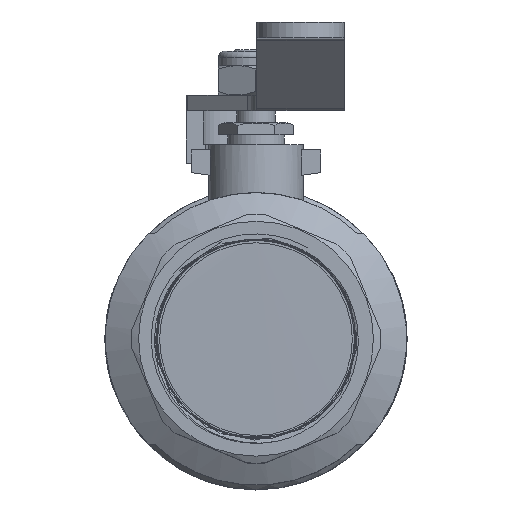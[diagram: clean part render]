
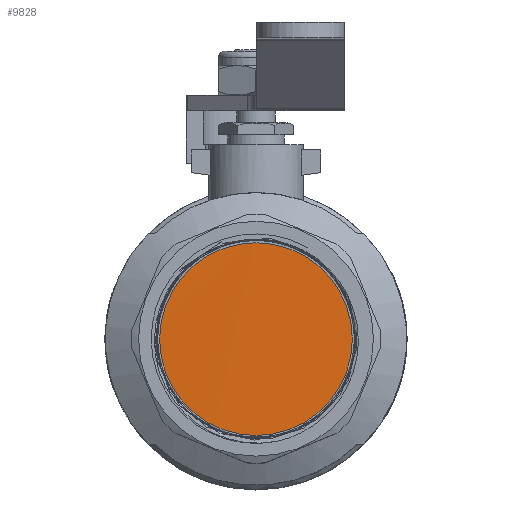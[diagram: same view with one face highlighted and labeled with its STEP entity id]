
A CAD part, top view. The second image highlights one B-rep face of the part: STEP entity #9828.
In plain terms, the highlighted cylindrical face has radius 29.657 mm (diameter 59.315 mm), a full revolution.
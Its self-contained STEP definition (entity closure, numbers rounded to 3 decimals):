
#818=FACE_OUTER_BOUND('',#1363,.T.);
#1363=EDGE_LOOP('',(#6229,#6230,#6231));
#1969=B_SPLINE_CURVE_WITH_KNOTS('',3,(#12920,#12921,#12922,#12923,#12924,
#12925,#12926,#12927,#12928,#12929,#12930,#12931,#12932,#12933,#12934,#12935,
#12936,#12937,#12938,#12939,#12940,#12941,#12942,#12943,#12944,#12945,#12946,
#12947,#12948,#12949,#12950,#12951,#12952,#12953,#12954,#12955,#12956,#12957,
#12958,#12959,#12960,#12961,#12962),.UNSPECIFIED.,.F.,.F.,(4,3,3,3,3,3,
3,3,3,3,3,3,3,3,4),(-69.115,-68.859,-68.364,
-67.868,-67.372,-66.877,-66.381,
-65.886,-65.39,-64.894,-64.399,
-63.903,-63.408,-62.912,-62.832),
 .UNSPECIFIED.);
#2447=LINE('',#12917,#3116);
#2448=LINE('',#12919,#3117);
#3116=VECTOR('',#11014,29.657);
#3117=VECTOR('',#11015,29.657);
#3785=VERTEX_POINT('',#12915);
#3786=VERTEX_POINT('',#12916);
#3787=VERTEX_POINT('',#12918);
#4763=EDGE_CURVE('',#3785,#3786,#2447,.T.);
#4764=EDGE_CURVE('',#3785,#3787,#2448,.T.);
#4765=EDGE_CURVE('',#3787,#3786,#1969,.T.);
#6229=ORIENTED_EDGE('',*,*,#4763,.F.);
#6230=ORIENTED_EDGE('',*,*,#4764,.T.);
#6231=ORIENTED_EDGE('',*,*,#4765,.T.);
#9161=CYLINDRICAL_SURFACE('',#10394,29.657);
#9828=ADVANCED_FACE('',(#818),#9161,.T.);
#10394=AXIS2_PLACEMENT_3D('',#12914,#11012,#11013);
#11012=DIRECTION('center_axis',(0.,0.,-1.));
#11013=DIRECTION('ref_axis',(0.,-1.,0.));
#11014=DIRECTION('',(0.,0.,-1.));
#11015=DIRECTION('',(0.,0.,1.));
#12914=CARTESIAN_POINT('Origin',(0.,0.,-56.989));
#12915=CARTESIAN_POINT('',(0.,29.657,-55.235));
#12916=CARTESIAN_POINT('',(0.,29.657,-56.735));
#12917=CARTESIAN_POINT('',(0.,29.657,-56.989));
#12918=CARTESIAN_POINT('',(0.,29.657,-55.135));
#12919=CARTESIAN_POINT('',(0.,29.657,-56.989));
#12920=CARTESIAN_POINT('Ctrl Pts',(0.,29.655,
-55.135));
#12921=CARTESIAN_POINT('Ctrl Pts',(2.529,29.655,-55.157));
#12922=CARTESIAN_POINT('Ctrl Pts',(5.059,29.334,-55.179));
#12923=CARTESIAN_POINT('Ctrl Pts',(7.505,28.695,-55.2));
#12924=CARTESIAN_POINT('Ctrl Pts',(12.244,27.455,-55.242));
#12925=CARTESIAN_POINT('Ctrl Pts',(16.669,25.017,-55.284));
#12926=CARTESIAN_POINT('Ctrl Pts',(20.248,21.673,-55.326));
#12927=CARTESIAN_POINT('Ctrl Pts',(23.827,18.329,-55.369));
#12928=CARTESIAN_POINT('Ctrl Pts',(26.56,14.08,-55.411));
#12929=CARTESIAN_POINT('Ctrl Pts',(28.119,9.437,-55.453));
#12930=CARTESIAN_POINT('Ctrl Pts',(29.677,4.793,-55.495));
#12931=CARTESIAN_POINT('Ctrl Pts',(30.061,-0.245,
-55.537));
#12932=CARTESIAN_POINT('Ctrl Pts',(29.223,-5.071,-55.579));
#12933=CARTESIAN_POINT('Ctrl Pts',(28.386,-9.897,-55.621));
#12934=CARTESIAN_POINT('Ctrl Pts',(26.328,-14.511,-55.663));
#12935=CARTESIAN_POINT('Ctrl Pts',(23.296,-18.358,-55.705));
#12936=CARTESIAN_POINT('Ctrl Pts',(20.264,-22.205,-55.747));
#12937=CARTESIAN_POINT('Ctrl Pts',(16.259,-25.285,-55.789));
#12938=CARTESIAN_POINT('Ctrl Pts',(11.763,-27.228,-55.831));
#12939=CARTESIAN_POINT('Ctrl Pts',(7.267,-29.17,-55.873));
#12940=CARTESIAN_POINT('Ctrl Pts',(2.279,-29.975,-55.915));
#12941=CARTESIAN_POINT('Ctrl Pts',(-2.601,-29.546,
-55.957));
#12942=CARTESIAN_POINT('Ctrl Pts',(-7.48,-29.116,
-56.));
#12943=CARTESIAN_POINT('Ctrl Pts',(-12.25,-27.452,
-56.042));
#12944=CARTESIAN_POINT('Ctrl Pts',(-16.338,-24.754,
-56.084));
#12945=CARTESIAN_POINT('Ctrl Pts',(-20.426,-22.056,-56.126));
#12946=CARTESIAN_POINT('Ctrl Pts',(-23.832,-18.324,
-56.168));
#12947=CARTESIAN_POINT('Ctrl Pts',(-26.145,-14.006,
-56.21));
#12948=CARTESIAN_POINT('Ctrl Pts',(-28.458,-9.689,
-56.252));
#12949=CARTESIAN_POINT('Ctrl Pts',(-29.678,-4.786,
-56.294));
#12950=CARTESIAN_POINT('Ctrl Pts',(-29.66,0.112,
-56.336));
#12951=CARTESIAN_POINT('Ctrl Pts',(-29.641,5.01,-56.378));
#12952=CARTESIAN_POINT('Ctrl Pts',(-28.384,9.903,-56.42));
#12953=CARTESIAN_POINT('Ctrl Pts',(-26.038,14.203,-56.462));
#12954=CARTESIAN_POINT('Ctrl Pts',(-23.692,18.503,-56.504));
#12955=CARTESIAN_POINT('Ctrl Pts',(-20.259,22.21,-56.546));
#12956=CARTESIAN_POINT('Ctrl Pts',(-16.151,24.877,-56.588));
#12957=CARTESIAN_POINT('Ctrl Pts',(-12.043,27.544,-56.631));
#12958=CARTESIAN_POINT('Ctrl Pts',(-7.26,29.172,-56.673));
#12959=CARTESIAN_POINT('Ctrl Pts',(-2.377,29.565,-56.715));
#12960=CARTESIAN_POINT('Ctrl Pts',(-1.587,29.628,-56.721));
#12961=CARTESIAN_POINT('Ctrl Pts',(-0.794,29.659,
-56.728));
#12962=CARTESIAN_POINT('Ctrl Pts',(-0.001,29.659,
-56.735));
